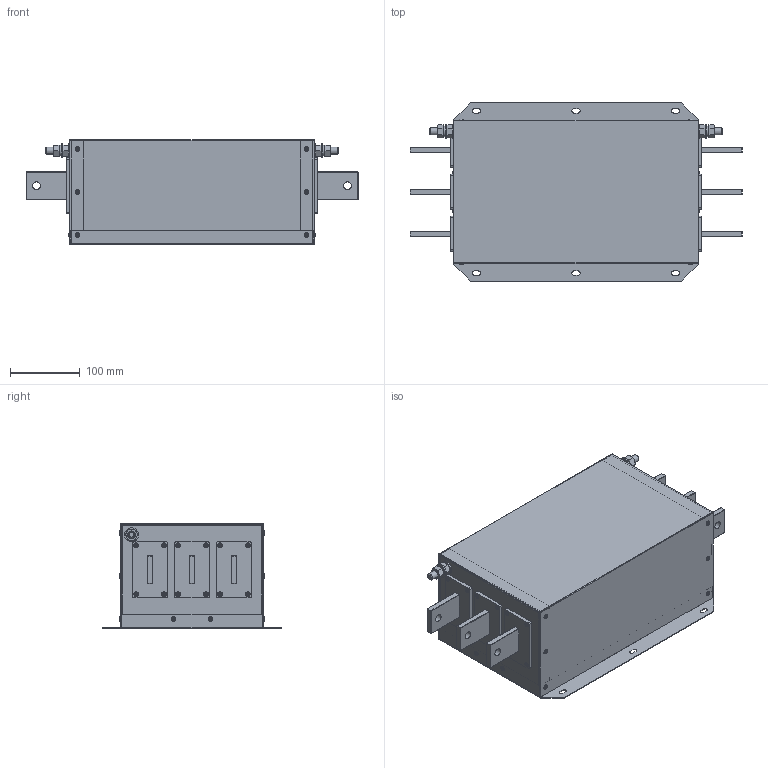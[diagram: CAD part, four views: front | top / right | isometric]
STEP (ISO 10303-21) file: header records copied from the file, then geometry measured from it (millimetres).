
FILE_DESCRIPTION(('STEP AP203'), '1');
FILE_NAME('ÝÌÑ ôèëüòð - IEF-400_785-4', '', ('UNSPECIFIED'), ('UNSPECIFIED'), 'C3D Converter', 'C3D Toolkit', '');
FILE_SCHEMA(('CONFIG_CONTROL_DESIGN'));
Length unit declared in the file: millimetre
Products named in the file (21): IEF-400_785-4; DIN 125 (A); DIN 127 (A); DIN 934; DIN 976; DIN 7337
Assembly tree (82 placements, depth 4):
  IEF-400_785-4
    IEF-400_785-4
    DIN 125 (A)  x4
      (unnamed)
    DIN 127 (A)  x2
      (unnamed)
    DIN 934  x4
      (unnamed)
    DIN 976  x2
      (unnamed)
    DIN 7337  x16
      (unnamed)
    IEF-400_785-4
      IEF-400_785-4
      IEF-400_785-4  x6
      DIN 7337  x12
        (unnamed)
      IEF-400_785-4  x3
    IEF-400_785-4
      IEF-400_785-4
      IEF-400_785-4  x6
      IEF-400_785-4  x3
      DIN 7337  x12
        (unnamed)
    IEF-400_785-4
Bounding box: 475 x 255 x 150 mm (x, y, z)
Volume: 714039.1 mm3; surface area: 887882.6 mm2
Topology: 74 solids, 74 shells, 1138 faces, 2366 edges, 1480 vertices
Faces by surface type: plane 564, cylinder 394, torus 80, cone 60, sphere 24, bspline 16
Full cylindrical faces by diameter (mm): 2.1 x40, 3.2 x40, 3.5 x104, 6.8 x48, 8.376 x4, 10 x4, 10.5 x4, 11 x6, 20 x4
Entity records: 14710 total; most frequent: CARTESIAN_POINT 3430, DIRECTION 1818, ORIENTED_EDGE 1528, EDGE_CURVE 764, AXIS2_PLACEMENT_3D 682, EDGE_LOOP 608, VERTEX_POINT 518, LINE 454
